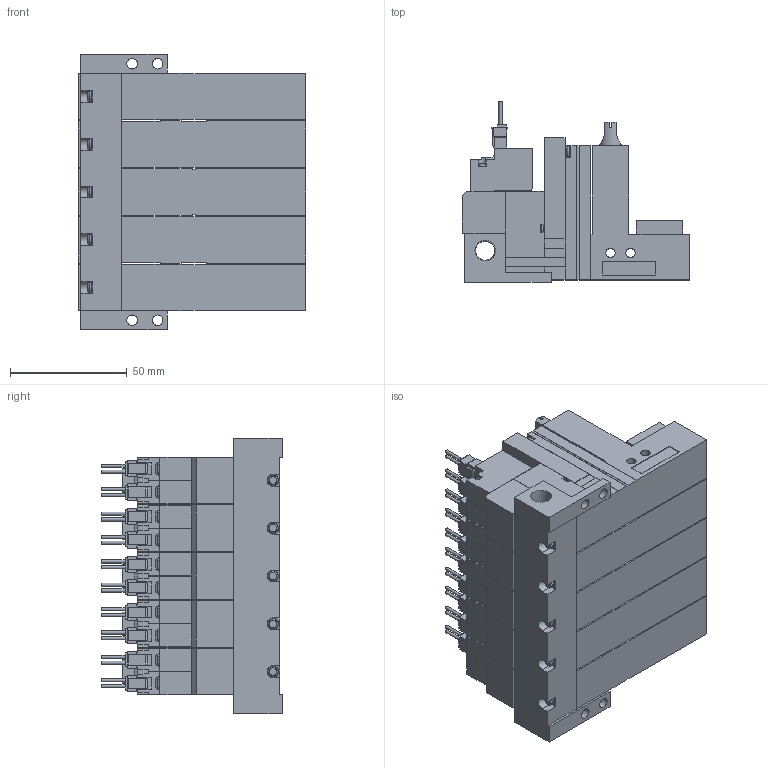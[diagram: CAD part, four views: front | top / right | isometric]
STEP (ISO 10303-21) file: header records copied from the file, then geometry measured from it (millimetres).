
FILE_DESCRIPTION(('STEP AP203'),'1');
FILE_NAME('ZLC5BLR505.stp','2025-02-19T00:39:35',(' '),(' '),'Spatial InterOp 3D',' ',' ');
FILE_SCHEMA(('CONFIG_CONTROL_DESIGN'));
Length unit declared in the file: millimetre
Products named in the file (5): BMC22M※※※※ZLC5BLR505; Solenoid valve B; Pressure sensor ZLC; Unit LC; Base MR50R
Assembly tree (16 placements, depth 2):
  BMC22M※※※※ZLC5BLR505
    Solenoid valve B  x5
    Pressure sensor ZLC  x5
    Unit LC  x5
    Base MR50R
Bounding box: 97.6 x 77.45 x 118 mm (x, y, z)
Volume: 446060.8 mm3; surface area: 118517.9 mm2
Topology: 16 solids, 16 shells, 1811 faces, 4924 edges, 3235 vertices
Faces by surface type: plane 1564, cylinder 185, cone 37, torus 25
Full cylindrical faces by diameter (mm): 1.4 x20, 2.5 x5, 3 x20, 3.5 x20, 3.6 x5, 4 x10, 4.134 x5, 4.5 x4, 5.2 x5, 6 x5, 6.6 x5, 8.279 x1
Entity records: 13855 total; most frequent: CARTESIAN_POINT 2676, DIRECTION 2188, ORIENTED_EDGE 2172, EDGE_CURVE 1086, LINE 890, VECTOR 890, VERTEX_POINT 756, AXIS2_PLACEMENT_3D 649
